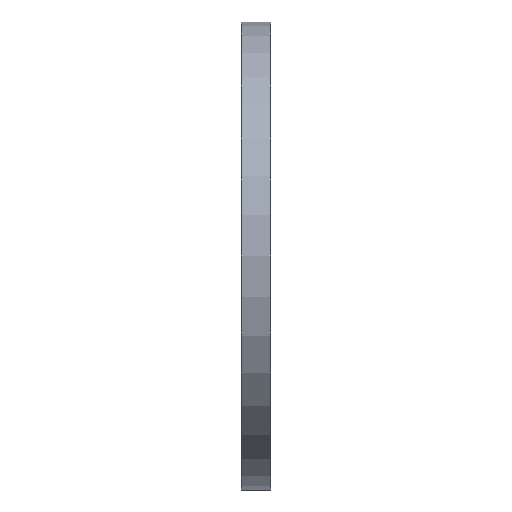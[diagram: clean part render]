
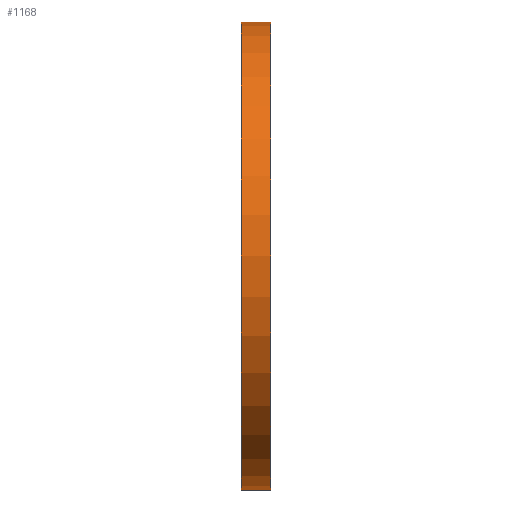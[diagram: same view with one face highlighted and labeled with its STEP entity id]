
A CAD part, left-side view. The second image highlights one B-rep face of the part: STEP entity #1168.
In plain terms, the highlighted cylindrical face has radius 48 mm (diameter 96 mm), a partial arc.
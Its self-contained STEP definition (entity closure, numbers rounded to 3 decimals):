
#36 = CARTESIAN_POINT ( 'NONE',  ( 0., 6., -48. ) ) ;
#106 = EDGE_CURVE ( 'NONE', #571, #638, #887, .T. ) ;
#135 = CARTESIAN_POINT ( 'NONE',  ( 0., 0., 0. ) ) ;
#158 = AXIS2_PLACEMENT_3D ( 'NONE', #880, #1417, #650 ) ;
#187 = DIRECTION ( 'NONE',  ( 0., 1., 0. ) ) ;
#229 = FACE_OUTER_BOUND ( 'NONE', #389, .T. ) ;
#248 = LINE ( 'NONE', #325, #509 ) ;
#320 = ORIENTED_EDGE ( 'NONE', *, *, #106, .F. ) ;
#325 = CARTESIAN_POINT ( 'NONE',  ( 0., 6., -48. ) ) ;
#333 = CIRCLE ( 'NONE', #1137, 48. ) ;
#356 = VERTEX_POINT ( 'NONE', #782 ) ;
#378 = ORIENTED_EDGE ( 'NONE', *, *, #1350, .T. ) ;
#387 = CARTESIAN_POINT ( 'NONE',  ( 0., 6., 48. ) ) ;
#389 = EDGE_LOOP ( 'NONE', ( #320, #1331, #1218, #378 ) ) ;
#440 = CIRCLE ( 'NONE', #858, 48. ) ;
#509 = VECTOR ( 'NONE', #1211, 1000. ) ;
#518 = CARTESIAN_POINT ( 'NONE',  ( 0., 6., 0. ) ) ;
#571 = VERTEX_POINT ( 'NONE', #1158 ) ;
#609 = CYLINDRICAL_SURFACE ( 'NONE', #158, 48. ) ;
#638 = VERTEX_POINT ( 'NONE', #1377 ) ;
#650 = DIRECTION ( 'NONE',  ( 0., 0., -1. ) ) ;
#730 = EDGE_CURVE ( 'NONE', #990, #571, #440, .T. ) ;
#782 = CARTESIAN_POINT ( 'NONE',  ( 0., 0., -48. ) ) ;
#840 = EDGE_CURVE ( 'NONE', #990, #356, #248, .T. ) ;
#858 = AXIS2_PLACEMENT_3D ( 'NONE', #518, #187, #1089 ) ;
#880 = CARTESIAN_POINT ( 'NONE',  ( 0., 6., 0. ) ) ;
#887 = LINE ( 'NONE', #387, #906 ) ;
#906 = VECTOR ( 'NONE', #1203, 1000. ) ;
#908 = DIRECTION ( 'NONE',  ( 0., 0., 1. ) ) ;
#990 = VERTEX_POINT ( 'NONE', #36 ) ;
#1089 = DIRECTION ( 'NONE',  ( 0., 0., 1. ) ) ;
#1137 = AXIS2_PLACEMENT_3D ( 'NONE', #135, #1162, #908 ) ;
#1158 = CARTESIAN_POINT ( 'NONE',  ( 0., 6., 48. ) ) ;
#1162 = DIRECTION ( 'NONE',  ( 0., 1., 0. ) ) ;
#1168 = ADVANCED_FACE ( 'NONE', ( #229 ), #609, .T. ) ;
#1203 = DIRECTION ( 'NONE',  ( 0., -1., 0. ) ) ;
#1211 = DIRECTION ( 'NONE',  ( 0., -1., 0. ) ) ;
#1218 = ORIENTED_EDGE ( 'NONE', *, *, #840, .T. ) ;
#1331 = ORIENTED_EDGE ( 'NONE', *, *, #730, .F. ) ;
#1350 = EDGE_CURVE ( 'NONE', #356, #638, #333, .T. ) ;
#1377 = CARTESIAN_POINT ( 'NONE',  ( 0., 0., 48. ) ) ;
#1417 = DIRECTION ( 'NONE',  ( 0., -1., 0. ) ) ;
